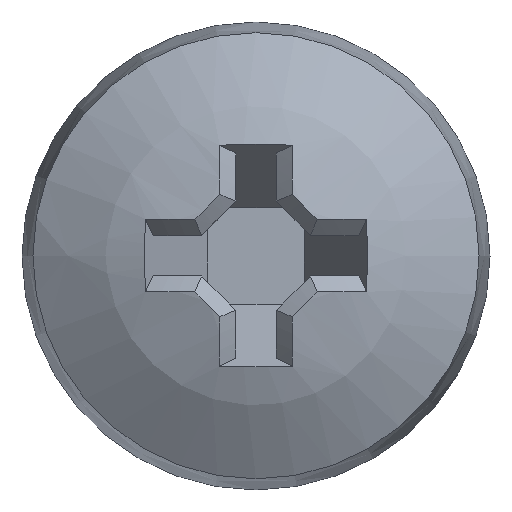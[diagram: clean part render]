
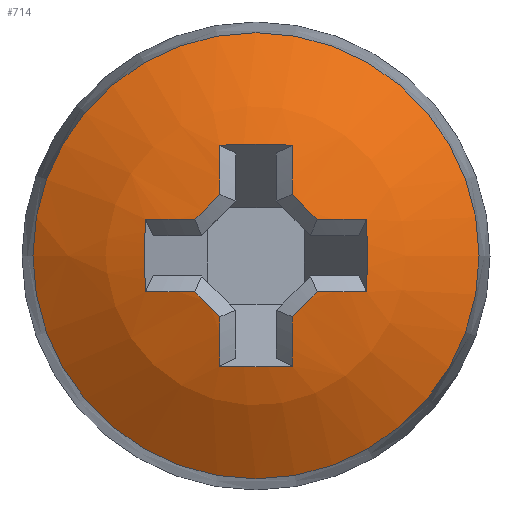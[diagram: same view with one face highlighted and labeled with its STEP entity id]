
A CAD part, top view. The second image highlights one B-rep face of the part: STEP entity #714.
In plain terms, the highlighted spherical face has radius 4.905 mm.
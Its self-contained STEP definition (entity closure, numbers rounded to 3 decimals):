
#58=SPHERICAL_SURFACE('',#800,4.905);
#177=FACE_OUTER_BOUND('',#215,.T.);
#215=EDGE_LOOP('',(#573,#574,#575,#576,#577,#578,#579,#580,#581,#582,#583,
#584,#585,#586,#587,#588,#589,#590,#591,#592,#593));
#254=CIRCLE('',#753,4.883);
#255=CIRCLE('',#755,4.825);
#258=CIRCLE('',#760,4.883);
#260=CIRCLE('',#765,4.883);
#261=CIRCLE('',#767,4.825);
#264=CIRCLE('',#772,4.883);
#266=CIRCLE('',#778,4.883);
#267=CIRCLE('',#780,4.825);
#270=CIRCLE('',#785,4.883);
#272=CIRCLE('',#790,4.883);
#273=CIRCLE('',#792,4.825);
#276=CIRCLE('',#797,4.883);
#277=CIRCLE('',#801,4.779);
#278=CIRCLE('',#802,4.779);
#279=CIRCLE('',#803,4.905);
#280=CIRCLE('',#804,2.86);
#281=CIRCLE('',#805,2.86);
#282=CIRCLE('',#806,4.779);
#283=CIRCLE('',#807,4.779);
#284=CIRCLE('',#808,4.779);
#299=VERTEX_POINT('',#1053);
#300=VERTEX_POINT('',#1057);
#302=VERTEX_POINT('',#1068);
#304=VERTEX_POINT('',#1077);
#313=VERTEX_POINT('',#1102);
#314=VERTEX_POINT('',#1106);
#316=VERTEX_POINT('',#1117);
#318=VERTEX_POINT('',#1126);
#327=VERTEX_POINT('',#1153);
#328=VERTEX_POINT('',#1157);
#330=VERTEX_POINT('',#1168);
#332=VERTEX_POINT('',#1177);
#341=VERTEX_POINT('',#1202);
#342=VERTEX_POINT('',#1206);
#344=VERTEX_POINT('',#1217);
#346=VERTEX_POINT('',#1226);
#353=VERTEX_POINT('',#1249);
#354=VERTEX_POINT('',#1251);
#355=VERTEX_POINT('',#1253);
#368=EDGE_CURVE('',#299,#300,#254,.T.);
#371=EDGE_CURVE('',#300,#302,#255,.T.);
#377=EDGE_CURVE('',#302,#304,#258,.T.);
#386=EDGE_CURVE('',#313,#314,#260,.T.);
#389=EDGE_CURVE('',#314,#316,#261,.T.);
#395=EDGE_CURVE('',#316,#318,#264,.T.);
#405=EDGE_CURVE('',#327,#328,#266,.T.);
#408=EDGE_CURVE('',#328,#330,#267,.T.);
#414=EDGE_CURVE('',#330,#332,#270,.T.);
#423=EDGE_CURVE('',#341,#342,#272,.T.);
#426=EDGE_CURVE('',#342,#344,#273,.T.);
#432=EDGE_CURVE('',#344,#346,#276,.T.);
#439=EDGE_CURVE('',#346,#299,#277,.T.);
#440=EDGE_CURVE('',#353,#341,#278,.T.);
#441=EDGE_CURVE('',#353,#354,#279,.T.);
#442=EDGE_CURVE('',#355,#354,#280,.T.);
#443=EDGE_CURVE('',#354,#355,#281,.T.);
#444=EDGE_CURVE('',#332,#353,#282,.T.);
#445=EDGE_CURVE('',#318,#327,#283,.T.);
#446=EDGE_CURVE('',#304,#313,#284,.T.);
#573=ORIENTED_EDGE('',*,*,#439,.F.);
#574=ORIENTED_EDGE('',*,*,#432,.F.);
#575=ORIENTED_EDGE('',*,*,#426,.F.);
#576=ORIENTED_EDGE('',*,*,#423,.F.);
#577=ORIENTED_EDGE('',*,*,#440,.F.);
#578=ORIENTED_EDGE('',*,*,#441,.T.);
#579=ORIENTED_EDGE('',*,*,#442,.F.);
#580=ORIENTED_EDGE('',*,*,#443,.F.);
#581=ORIENTED_EDGE('',*,*,#441,.F.);
#582=ORIENTED_EDGE('',*,*,#444,.F.);
#583=ORIENTED_EDGE('',*,*,#414,.F.);
#584=ORIENTED_EDGE('',*,*,#408,.F.);
#585=ORIENTED_EDGE('',*,*,#405,.F.);
#586=ORIENTED_EDGE('',*,*,#445,.F.);
#587=ORIENTED_EDGE('',*,*,#395,.F.);
#588=ORIENTED_EDGE('',*,*,#389,.F.);
#589=ORIENTED_EDGE('',*,*,#386,.F.);
#590=ORIENTED_EDGE('',*,*,#446,.F.);
#591=ORIENTED_EDGE('',*,*,#377,.F.);
#592=ORIENTED_EDGE('',*,*,#371,.F.);
#593=ORIENTED_EDGE('',*,*,#368,.F.);
#714=ADVANCED_FACE('',(#177),#58,.T.);
#753=AXIS2_PLACEMENT_3D('',#1058,#843,#844);
#755=AXIS2_PLACEMENT_3D('',#1069,#847,#848);
#760=AXIS2_PLACEMENT_3D('',#1085,#857,#858);
#765=AXIS2_PLACEMENT_3D('',#1107,#873,#874);
#767=AXIS2_PLACEMENT_3D('',#1118,#877,#878);
#772=AXIS2_PLACEMENT_3D('',#1134,#887,#888);
#778=AXIS2_PLACEMENT_3D('',#1158,#906,#907);
#780=AXIS2_PLACEMENT_3D('',#1169,#910,#911);
#785=AXIS2_PLACEMENT_3D('',#1185,#920,#921);
#790=AXIS2_PLACEMENT_3D('',#1207,#936,#937);
#792=AXIS2_PLACEMENT_3D('',#1218,#940,#941);
#797=AXIS2_PLACEMENT_3D('',#1234,#950,#951);
#800=AXIS2_PLACEMENT_3D('',#1247,#962,#963);
#801=AXIS2_PLACEMENT_3D('',#1248,#964,#965);
#802=AXIS2_PLACEMENT_3D('',#1250,#966,#967);
#803=AXIS2_PLACEMENT_3D('',#1252,#968,#969);
#804=AXIS2_PLACEMENT_3D('',#1254,#970,#971);
#805=AXIS2_PLACEMENT_3D('',#1255,#972,#973);
#806=AXIS2_PLACEMENT_3D('',#1256,#974,#975);
#807=AXIS2_PLACEMENT_3D('',#1257,#976,#977);
#808=AXIS2_PLACEMENT_3D('',#1258,#978,#979);
#843=DIRECTION('center_axis',(-1.,0.,0.));
#844=DIRECTION('ref_axis',(0.,0.,1.));
#847=DIRECTION('center_axis',(-0.707,0.707,0.));
#848=DIRECTION('ref_axis',(0.,0.,1.));
#857=DIRECTION('center_axis',(0.,1.,0.));
#858=DIRECTION('ref_axis',(0.,0.,1.));
#873=DIRECTION('center_axis',(0.,-1.,0.));
#874=DIRECTION('ref_axis',(0.,0.,1.));
#877=DIRECTION('center_axis',(-0.707,-0.707,0.));
#878=DIRECTION('ref_axis',(0.,0.,1.));
#887=DIRECTION('center_axis',(-1.,0.,0.));
#888=DIRECTION('ref_axis',(0.,0.,1.));
#906=DIRECTION('center_axis',(1.,0.,0.));
#907=DIRECTION('ref_axis',(0.,0.,1.));
#910=DIRECTION('center_axis',(0.707,-0.707,0.));
#911=DIRECTION('ref_axis',(0.,0.,1.));
#920=DIRECTION('center_axis',(0.,-1.,0.));
#921=DIRECTION('ref_axis',(0.,0.,1.));
#936=DIRECTION('center_axis',(0.,1.,0.));
#937=DIRECTION('ref_axis',(0.,0.,1.));
#940=DIRECTION('center_axis',(0.707,0.707,0.));
#941=DIRECTION('ref_axis',(0.,0.,1.));
#950=DIRECTION('center_axis',(1.,0.,0.));
#951=DIRECTION('ref_axis',(0.,0.,1.));
#962=DIRECTION('center_axis',(0.,0.,1.));
#963=DIRECTION('ref_axis',(1.,0.,0.));
#964=DIRECTION('center_axis',(0.,0.866,0.5));
#965=DIRECTION('ref_axis',(0.,0.5,-0.866));
#966=DIRECTION('center_axis',(0.866,0.,0.5));
#967=DIRECTION('ref_axis',(-0.5,0.,0.866));
#968=DIRECTION('center_axis',(0.,-1.,0.));
#969=DIRECTION('ref_axis',(-1.,0.,0.));
#970=DIRECTION('center_axis',(0.,0.,-1.));
#971=DIRECTION('ref_axis',(-1.,0.,0.));
#972=DIRECTION('center_axis',(0.,0.,-1.));
#973=DIRECTION('ref_axis',(-1.,0.,0.));
#974=DIRECTION('center_axis',(0.866,0.,0.5));
#975=DIRECTION('ref_axis',(-0.5,0.,0.866));
#976=DIRECTION('center_axis',(0.,-0.866,0.5));
#977=DIRECTION('ref_axis',(0.,0.5,0.866));
#978=DIRECTION('center_axis',(-0.866,0.,0.5));
#979=DIRECTION('ref_axis',(-0.5,0.,-0.866));
#1053=CARTESIAN_POINT('',(0.464,-1.416,2.288));
#1057=CARTESIAN_POINT('',(0.464,-0.784,2.435));
#1058=CARTESIAN_POINT('Origin',(0.464,0.,
-2.385));
#1068=CARTESIAN_POINT('',(0.784,-0.464,2.435));
#1069=CARTESIAN_POINT('Origin',(0.624,-0.624,-2.385));
#1077=CARTESIAN_POINT('',(1.416,-0.464,2.288));
#1085=CARTESIAN_POINT('Origin',(0.,-0.464,
-2.385));
#1102=CARTESIAN_POINT('',(1.416,0.464,2.288));
#1106=CARTESIAN_POINT('',(0.784,0.464,2.435));
#1107=CARTESIAN_POINT('Origin',(0.,0.464,
-2.385));
#1117=CARTESIAN_POINT('',(0.464,0.784,2.435));
#1118=CARTESIAN_POINT('Origin',(0.624,0.624,-2.385));
#1126=CARTESIAN_POINT('',(0.464,1.416,2.288));
#1134=CARTESIAN_POINT('Origin',(0.464,0.,
-2.385));
#1153=CARTESIAN_POINT('',(-0.464,1.416,2.288));
#1157=CARTESIAN_POINT('',(-0.464,0.784,2.435));
#1158=CARTESIAN_POINT('Origin',(-0.464,0.,
-2.385));
#1168=CARTESIAN_POINT('',(-0.784,0.464,2.435));
#1169=CARTESIAN_POINT('Origin',(-0.624,0.624,-2.385));
#1177=CARTESIAN_POINT('',(-1.416,0.464,2.288));
#1185=CARTESIAN_POINT('Origin',(0.,0.464,
-2.385));
#1202=CARTESIAN_POINT('',(-1.416,-0.464,2.288));
#1206=CARTESIAN_POINT('',(-0.784,-0.464,2.435));
#1207=CARTESIAN_POINT('Origin',(0.,-0.464,
-2.385));
#1217=CARTESIAN_POINT('',(-0.464,-0.784,2.435));
#1218=CARTESIAN_POINT('Origin',(-0.624,-0.624,-2.385));
#1226=CARTESIAN_POINT('',(-0.464,-1.416,2.288));
#1234=CARTESIAN_POINT('Origin',(-0.464,0.,
-2.385));
#1247=CARTESIAN_POINT('Origin',(0.,0.,-2.385));
#1248=CARTESIAN_POINT('Origin',(0.,0.96,-1.831));
#1249=CARTESIAN_POINT('',(-1.428,0.,2.308));
#1250=CARTESIAN_POINT('Origin',(0.96,0.,
-1.831));
#1251=CARTESIAN_POINT('',(-2.86,0.,1.6));
#1252=CARTESIAN_POINT('Origin',(0.,0.,-2.385));
#1253=CARTESIAN_POINT('',(2.86,0.,1.6));
#1254=CARTESIAN_POINT('Origin',(0.,0.,1.6));
#1255=CARTESIAN_POINT('Origin',(0.,0.,1.6));
#1256=CARTESIAN_POINT('Origin',(0.96,0.,
-1.831));
#1257=CARTESIAN_POINT('Origin',(0.,-0.96,
-1.831));
#1258=CARTESIAN_POINT('Origin',(-0.96,0.,-1.831));
